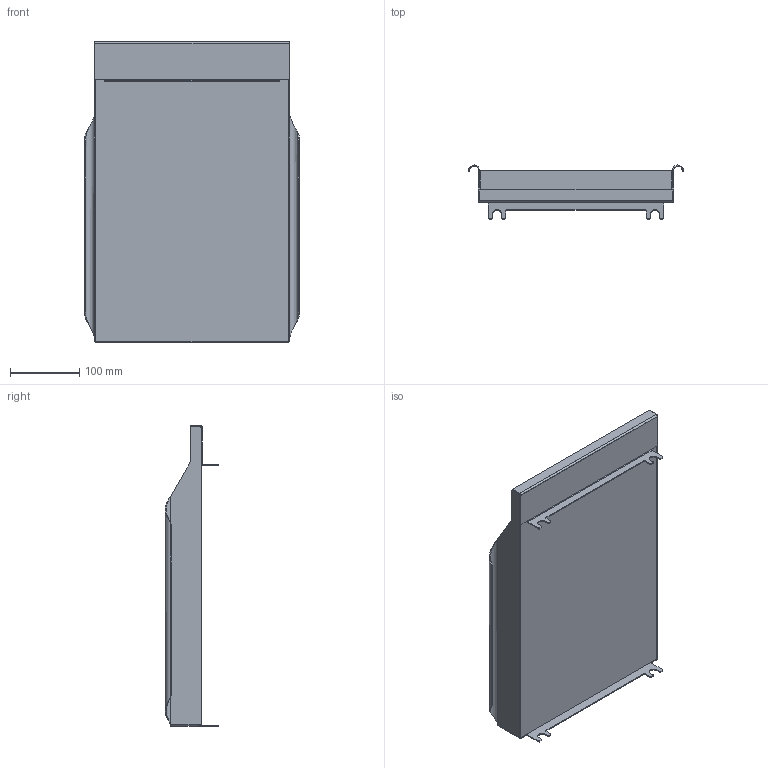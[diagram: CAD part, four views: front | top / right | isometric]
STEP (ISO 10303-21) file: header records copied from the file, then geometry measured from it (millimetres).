
FILE_DESCRIPTION(('CATIA V5 STEP Exchange','CAx-IF Rec.Pracs.--- Composite Materials ---3.4---2017-06-13'),'2;1');
FILE_NAME('C:\Users\MMAK\Documents\SmarTeam\WEBSITE CAD\GP\GP.stp','2025-10-03T12:04:53+00:00',('none'),('none'),'CATIA Unofficial Packaging Version SP2','CATIA V5 STEP AP203 v2','none');
FILE_SCHEMA(('CONFIG_CONTROL_DESIGN'));
Length unit declared in the file: inch
Products named in the file (1): 80846
Assembly tree (3 placements, depth 2):
  80846
    #63
    #1593
    #1771
Bounding box: 310.88 x 77.72 x 434.84 mm (x, y, z)
Volume: 639346.1 mm3; surface area: 398476.7 mm2
Topology: 3 solids, 3 shells, 120 faces, 294 edges, 180 vertices
Faces by surface type: plane 80, cylinder 36, bspline 4
Entity records: 4039 total; most frequent: CARTESIAN_POINT 1344, ORIENTED_EDGE 588, DIRECTION 438, EDGE_CURVE 294, VECTOR 218, LINE 218, VERTEX_POINT 180, AXIS2_PLACEMENT_3D 124
